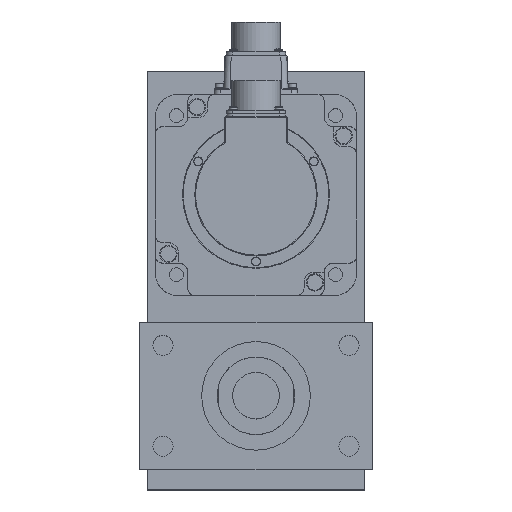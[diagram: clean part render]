
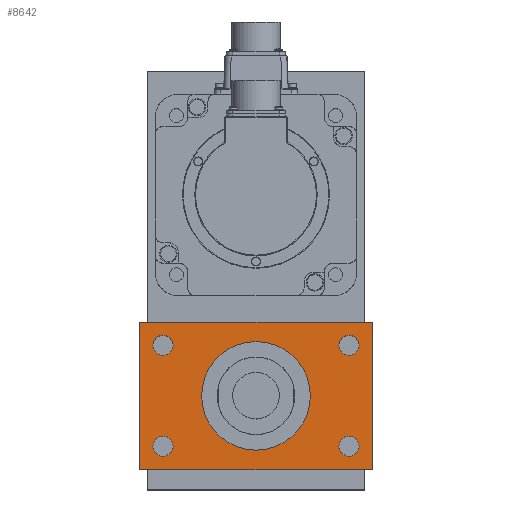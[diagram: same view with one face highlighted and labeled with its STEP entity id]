
A CAD part, top view. The second image highlights one B-rep face of the part: STEP entity #8642.
In plain terms, the highlighted planar face has unit normal (0, 0, 1).
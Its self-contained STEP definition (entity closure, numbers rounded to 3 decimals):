
#490 = CIRCLE ( 'NONE', #8500, 6.5 ) ;
#522 = EDGE_CURVE ( 'NONE', #19612, #15378, #25695, .T. ) ;
#758 = CARTESIAN_POINT ( 'NONE',  ( -75., 47.5, 270. ) ) ;
#1026 = EDGE_CURVE ( 'NONE', #27334, #10070, #12787, .T. ) ;
#1439 = FACE_BOUND ( 'NONE', #23003, .T. ) ;
#1496 = CARTESIAN_POINT ( 'NONE',  ( 75., 47.5, 270. ) ) ;
#1507 = AXIS2_PLACEMENT_3D ( 'NONE', #9582, #11371, #5018 ) ;
#1625 = DIRECTION ( 'NONE',  ( -1., 0., 0. ) ) ;
#1631 = CARTESIAN_POINT ( 'NONE',  ( 53.5, 32.5, 270. ) ) ;
#1702 = AXIS2_PLACEMENT_3D ( 'NONE', #21522, #19409, #17576 ) ;
#2105 = FACE_BOUND ( 'NONE', #16210, .T. ) ;
#2574 = ORIENTED_EDGE ( 'NONE', *, *, #12462, .F. ) ;
#2674 = VERTEX_POINT ( 'NONE', #10420 ) ;
#2915 = CARTESIAN_POINT ( 'NONE',  ( 60., -32.5, 270. ) ) ;
#3206 = DIRECTION ( 'NONE',  ( -1., 0., 0. ) ) ;
#3250 = ORIENTED_EDGE ( 'NONE', *, *, #4847, .T. ) ;
#3729 = FACE_BOUND ( 'NONE', #24078, .T. ) ;
#3977 = CARTESIAN_POINT ( 'NONE',  ( 35., 0., 270. ) ) ;
#4126 = VECTOR ( 'NONE', #4340, 1000. ) ;
#4200 = ORIENTED_EDGE ( 'NONE', *, *, #7727, .T. ) ;
#4340 = DIRECTION ( 'NONE',  ( -1., 0., 0. ) ) ;
#4523 = DIRECTION ( 'NONE',  ( 0., 0., 1. ) ) ;
#4649 = AXIS2_PLACEMENT_3D ( 'NONE', #11689, #15938, #3206 ) ;
#4802 = LINE ( 'NONE', #1496, #4126 ) ;
#4847 = EDGE_CURVE ( 'NONE', #19162, #6268, #15909, .T. ) ;
#5018 = DIRECTION ( 'NONE',  ( -1., 0., 0. ) ) ;
#5159 = EDGE_CURVE ( 'NONE', #16338, #2674, #10225, .T. ) ;
#5524 = ORIENTED_EDGE ( 'NONE', *, *, #7233, .F. ) ;
#5563 = DIRECTION ( 'NONE',  ( 0., 1., 0. ) ) ;
#6025 = CARTESIAN_POINT ( 'NONE',  ( 53.5, -32.5, 270. ) ) ;
#6268 = VERTEX_POINT ( 'NONE', #19193 ) ;
#6457 = DIRECTION ( 'NONE',  ( -1., 0., 0. ) ) ;
#6884 = ORIENTED_EDGE ( 'NONE', *, *, #22223, .F. ) ;
#7117 = CIRCLE ( 'NONE', #10248, 6.5 ) ;
#7170 = DIRECTION ( 'NONE',  ( 0., 0., 1. ) ) ;
#7233 = EDGE_CURVE ( 'NONE', #15870, #15294, #490, .T. ) ;
#7322 = DIRECTION ( 'NONE',  ( 1., 0., 0. ) ) ;
#7461 = PLANE ( 'NONE',  #4649 ) ;
#7520 = ORIENTED_EDGE ( 'NONE', *, *, #5159, .F. ) ;
#7547 = ORIENTED_EDGE ( 'NONE', *, *, #1026, .F. ) ;
#7727 = EDGE_CURVE ( 'NONE', #6268, #18001, #16431, .T. ) ;
#7783 = DIRECTION ( 'NONE',  ( 1., 0., 0. ) ) ;
#8227 = CARTESIAN_POINT ( 'NONE',  ( -53.5, 32.5, 270. ) ) ;
#8500 = AXIS2_PLACEMENT_3D ( 'NONE', #25321, #14343, #1625 ) ;
#8536 = CIRCLE ( 'NONE', #1702, 6.5 ) ;
#8642 = ADVANCED_FACE ( 'NONE', ( #8708, #24638, #3729, #2105, #18365, #1439 ), #7461, .F. ) ;
#8708 = FACE_OUTER_BOUND ( 'NONE', #10816, .T. ) ;
#9027 = CARTESIAN_POINT ( 'NONE',  ( 0., 0., 270. ) ) ;
#9328 = DIRECTION ( 'NONE',  ( 1., 0., 0. ) ) ;
#9332 = CARTESIAN_POINT ( 'NONE',  ( -53.5, -32.5, 270. ) ) ;
#9582 = CARTESIAN_POINT ( 'NONE',  ( 60., 32.5, 270. ) ) ;
#9616 = VERTEX_POINT ( 'NONE', #20274 ) ;
#9826 = CARTESIAN_POINT ( 'NONE',  ( 66.5, 32.5, 270. ) ) ;
#10070 = VERTEX_POINT ( 'NONE', #20331 ) ;
#10124 = VECTOR ( 'NONE', #5563, 1000. ) ;
#10225 = CIRCLE ( 'NONE', #13134, 6.5 ) ;
#10248 = AXIS2_PLACEMENT_3D ( 'NONE', #24736, #16167, #7783 ) ;
#10307 = CARTESIAN_POINT ( 'NONE',  ( 60., -32.5, 270. ) ) ;
#10420 = CARTESIAN_POINT ( 'NONE',  ( 66.5, -32.5, 270. ) ) ;
#10816 = EDGE_LOOP ( 'NONE', ( #14896, #12887, #3250, #4200 ) ) ;
#10999 = CIRCLE ( 'NONE', #26659, 35. ) ;
#11371 = DIRECTION ( 'NONE',  ( 0., 0., 1. ) ) ;
#11542 = CIRCLE ( 'NONE', #20326, 6.5 ) ;
#11689 = CARTESIAN_POINT ( 'NONE',  ( 0., 0., 270. ) ) ;
#12066 = EDGE_CURVE ( 'NONE', #2674, #16338, #16657, .T. ) ;
#12436 = DIRECTION ( 'NONE',  ( -1., 0., 0. ) ) ;
#12462 = EDGE_CURVE ( 'NONE', #10070, #27334, #10999, .T. ) ;
#12787 = CIRCLE ( 'NONE', #16216, 35. ) ;
#12887 = ORIENTED_EDGE ( 'NONE', *, *, #19274, .T. ) ;
#13057 = AXIS2_PLACEMENT_3D ( 'NONE', #2915, #15811, #17845 ) ;
#13134 = AXIS2_PLACEMENT_3D ( 'NONE', #10307, #16516, #12436 ) ;
#13335 = DIRECTION ( 'NONE',  ( -1., 0., 0. ) ) ;
#13485 = ORIENTED_EDGE ( 'NONE', *, *, #522, .F. ) ;
#13905 = CARTESIAN_POINT ( 'NONE',  ( -60., 32.5, 270. ) ) ;
#13999 = DIRECTION ( 'NONE',  ( 0., 0., 1. ) ) ;
#14215 = CARTESIAN_POINT ( 'NONE',  ( 75., -47.5, 270. ) ) ;
#14343 = DIRECTION ( 'NONE',  ( 0., 0., 1. ) ) ;
#14411 = EDGE_CURVE ( 'NONE', #9616, #19047, #8536, .T. ) ;
#14525 = CARTESIAN_POINT ( 'NONE',  ( -75., -47.5, 270. ) ) ;
#14569 = ORIENTED_EDGE ( 'NONE', *, *, #25826, .F. ) ;
#14627 = LINE ( 'NONE', #21944, #19897 ) ;
#14896 = ORIENTED_EDGE ( 'NONE', *, *, #22371, .T. ) ;
#15154 = ORIENTED_EDGE ( 'NONE', *, *, #24812, .F. ) ;
#15294 = VERTEX_POINT ( 'NONE', #9826 ) ;
#15378 = VERTEX_POINT ( 'NONE', #8227 ) ;
#15479 = ORIENTED_EDGE ( 'NONE', *, *, #12066, .F. ) ;
#15811 = DIRECTION ( 'NONE',  ( 0., 0., 1. ) ) ;
#15846 = DIRECTION ( 'NONE',  ( 1., 0., 0. ) ) ;
#15870 = VERTEX_POINT ( 'NONE', #1631 ) ;
#15909 = LINE ( 'NONE', #26117, #26444 ) ;
#15938 = DIRECTION ( 'NONE',  ( 0., 0., -1. ) ) ;
#16167 = DIRECTION ( 'NONE',  ( 0., 0., 1. ) ) ;
#16210 = EDGE_LOOP ( 'NONE', ( #7520, #15479 ) ) ;
#16216 = AXIS2_PLACEMENT_3D ( 'NONE', #9027, #21895, #13335 ) ;
#16338 = VERTEX_POINT ( 'NONE', #6025 ) ;
#16431 = LINE ( 'NONE', #14215, #10124 ) ;
#16516 = DIRECTION ( 'NONE',  ( 0., 0., 1. ) ) ;
#16657 = CIRCLE ( 'NONE', #13057, 6.5 ) ;
#17576 = DIRECTION ( 'NONE',  ( 1., 0., 0. ) ) ;
#17845 = DIRECTION ( 'NONE',  ( -1., 0., 0. ) ) ;
#18001 = VERTEX_POINT ( 'NONE', #22894 ) ;
#18365 = FACE_BOUND ( 'NONE', #27187, .T. ) ;
#18723 = CARTESIAN_POINT ( 'NONE',  ( -66.5, 32.5, 270. ) ) ;
#18883 = EDGE_LOOP ( 'NONE', ( #19017, #14569 ) ) ;
#19017 = ORIENTED_EDGE ( 'NONE', *, *, #14411, .F. ) ;
#19047 = VERTEX_POINT ( 'NONE', #9332 ) ;
#19162 = VERTEX_POINT ( 'NONE', #14525 ) ;
#19190 = CIRCLE ( 'NONE', #1507, 6.5 ) ;
#19193 = CARTESIAN_POINT ( 'NONE',  ( 75., -47.5, 270. ) ) ;
#19194 = CARTESIAN_POINT ( 'NONE',  ( 0., 0., 270. ) ) ;
#19274 = EDGE_CURVE ( 'NONE', #26944, #19162, #14627, .T. ) ;
#19409 = DIRECTION ( 'NONE',  ( 0., 0., 1. ) ) ;
#19612 = VERTEX_POINT ( 'NONE', #18723 ) ;
#19834 = DIRECTION ( 'NONE',  ( 0., -1., 0. ) ) ;
#19897 = VECTOR ( 'NONE', #19834, 1000. ) ;
#20274 = CARTESIAN_POINT ( 'NONE',  ( -66.5, -32.5, 270. ) ) ;
#20326 = AXIS2_PLACEMENT_3D ( 'NONE', #21908, #7170, #9328 ) ;
#20331 = CARTESIAN_POINT ( 'NONE',  ( -35., 0., 270. ) ) ;
#20435 = AXIS2_PLACEMENT_3D ( 'NONE', #13905, #13999, #15846 ) ;
#21522 = CARTESIAN_POINT ( 'NONE',  ( -60., -32.5, 270. ) ) ;
#21895 = DIRECTION ( 'NONE',  ( 0., 0., 1. ) ) ;
#21908 = CARTESIAN_POINT ( 'NONE',  ( -60., -32.5, 270. ) ) ;
#21944 = CARTESIAN_POINT ( 'NONE',  ( -75., -47.5, 270. ) ) ;
#22223 = EDGE_CURVE ( 'NONE', #15378, #19612, #7117, .T. ) ;
#22371 = EDGE_CURVE ( 'NONE', #18001, #26944, #4802, .T. ) ;
#22894 = CARTESIAN_POINT ( 'NONE',  ( 75., 47.5, 270. ) ) ;
#23003 = EDGE_LOOP ( 'NONE', ( #2574, #7547 ) ) ;
#24078 = EDGE_LOOP ( 'NONE', ( #13485, #6884 ) ) ;
#24638 = FACE_BOUND ( 'NONE', #18883, .T. ) ;
#24736 = CARTESIAN_POINT ( 'NONE',  ( -60., 32.5, 270. ) ) ;
#24812 = EDGE_CURVE ( 'NONE', #15294, #15870, #19190, .T. ) ;
#25321 = CARTESIAN_POINT ( 'NONE',  ( 60., 32.5, 270. ) ) ;
#25695 = CIRCLE ( 'NONE', #20435, 6.5 ) ;
#25826 = EDGE_CURVE ( 'NONE', #19047, #9616, #11542, .T. ) ;
#26117 = CARTESIAN_POINT ( 'NONE',  ( 75., -47.5, 270. ) ) ;
#26444 = VECTOR ( 'NONE', #7322, 1000. ) ;
#26659 = AXIS2_PLACEMENT_3D ( 'NONE', #19194, #4523, #6457 ) ;
#26944 = VERTEX_POINT ( 'NONE', #758 ) ;
#27187 = EDGE_LOOP ( 'NONE', ( #5524, #15154 ) ) ;
#27334 = VERTEX_POINT ( 'NONE', #3977 ) ;
